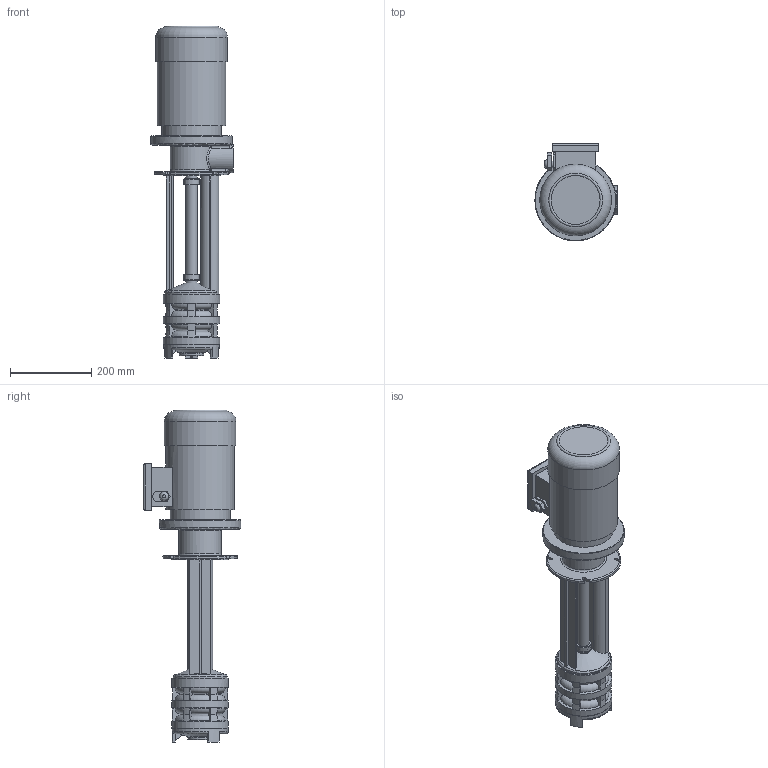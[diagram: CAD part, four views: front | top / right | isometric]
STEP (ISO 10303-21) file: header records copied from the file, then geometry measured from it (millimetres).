
FILE_DESCRIPTION(/* description */ ('Unknown'),/* implementation_level */ '2;1');
FILE_NAME(/* name */ 'gp3-450',/* time_stamp */ '2025-06-04T09:23:57+03:00',/* author */ ('Unknown'),/* organization */ ('Unknown'),/* preprocessor_version */ 'ST-DEVELOPER v16.7',/* originating_system */ 'DEX',/* authorisation */ $);
FILE_SCHEMA (('AUTOMOTIVE_DESIGN {1 0 10303 214 3 1 1}'));
Length unit declared in the file: millimetre
Products named in the file (1): gp3-450
Bounding box: 202 x 240 x 815.33 mm (x, y, z)
Volume: 11349276.5 mm3; surface area: 558022.4 mm2
Topology: 1 solids, 1 shells, 385 faces, 994 edges, 642 vertices
Faces by surface type: plane 134, bspline 84, cylinder 79, cone 47, torus 41
Full cylindrical faces by diameter (mm): 17 x1, 21.5 x1, 29 x3, 33 x2, 35 x2, 39 x2, 40.5 x2, 45 x1, 47 x1, 60 x1, 137 x1, 139 x3, 140 x1, 168.001 x1, 176 x1, 200 x1
Entity records: 14339 total; most frequent: CARTESIAN_POINT 5577, ORIENTED_EDGE 1864, DIRECTION 1645, EDGE_CURVE 932, VERTEX_POINT 632, AXIS2_PLACEMENT_3D 618, EDGE_LOOP 472, FACE_BOUND 472
